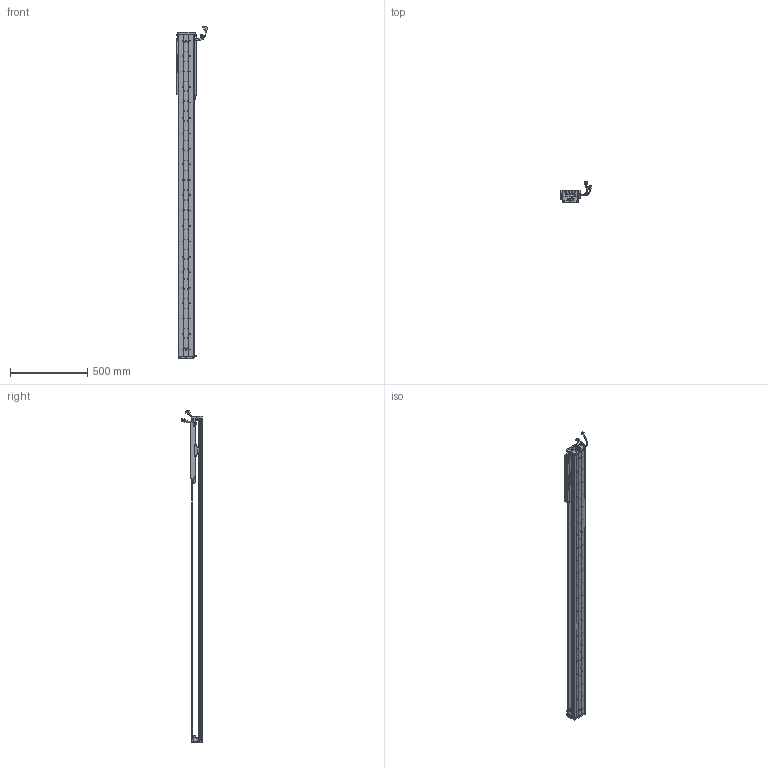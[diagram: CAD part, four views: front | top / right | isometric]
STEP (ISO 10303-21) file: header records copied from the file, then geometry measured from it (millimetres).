
FILE_DESCRIPTION (( 'STEP AP203' ), '1' );
FILE_NAME ('Z5-RY100D-1-L500-B-K.SLDASM_1650.step', '2021-05-17T03:33:51', ( '盈信电脑' ), ( '东莞市道滘镇水果街19号' ), 'SwSTEP 2.0', 'SolidWorks 2016', '' );
FILE_SCHEMA (( 'CONFIG_CONTROL_DESIGN' ));
Length unit declared in the file: millimetre
Products named in the file (36): SCREW-M1.7; SCREW-M1.6-3; 覜茼ん672; 140蚥薯蝶輸; Z-100詩湍傷裔啣; SCALE-Part-2; COVER-Part-1; 100-Z-臏賑輸盄裔(21遴); SCREW-M1.7-1; SEAL; 榋妏寠巭燃_暯_M2_2; SCALE-Part-1; Z5-RY100D-500-倰第菁釱_1650; HOLDER0; 080黍杅芛假蚾釱21遴; Z5-RY100-L500詩湍90mm遵_1650; SCREW-M1.6-2; HARNESS-Part-2; Z5-RY100铝滑块（21款）; SHIELDPLATE; SCALE; HARNESS; Z5-RY100D-1-L500-B-K.SLDASM_1650; LABEL; Z-RY100D覜茼んえ; COVER; SEAL-Part-1; Z-RY100D詩湍奻揤裔; PBU_SHEET; Z-RY100D詩湍狟揤裔; 140雄赽晤鎢ん堤盄; HARNESS-Part-1; SCREW-M1.6; SCREW-M1.6-1; PSLH080_PSLF2; LABEL-Part-1
Assembly tree (43 placements, depth 4):
  Z5-RY100D-1-L500-B-K.SLDASM_1650
    Z5-RY100D-500-倰第菁釱_1650
    Z5-RY100铝滑块（21款）
    PSLH080_PSLF2
      SCALE
        SCALE-Part-1
        SCALE-Part-2
      HARNESS
        HARNESS-Part-1
        HARNESS-Part-2
      LABEL
        LABEL-Part-1
      COVER
        COVER-Part-1
      SEAL
        SEAL-Part-1
      榋妏寠巭燃_暯_M2_2
      SHIELDPLATE
      SCREW-M1.7
      SCREW-M1.7-1
      PBU_SHEET
      SCREW-M1.6
      SCREW-M1.6-1
      SCREW-M1.6-2
      SCREW-M1.6-3
      HOLDER0
    080黍杅芛假蚾釱21遴
    Z-100詩湍傷裔啣  x2
    140蚥薯蝶輸  x2
    覜茼ん672  x3
    Z-RY100D覜茼んえ  x3
    100-Z-臏賑輸盄裔(21遴)
    140雄赽晤鎢ん堤盄
    Z5-RY100-L500詩湍90mm遵_1650
    Z-RY100D詩湍狟揤裔  x2
    Z-RY100D詩湍奻揤裔  x2
Bounding box: 205.84 x 136.11 x 2150.43 mm (x, y, z)
Volume: 4269188.6 mm3; surface area: 1635906.8 mm2
Topology: 38 solids, 38 shells, 2875 faces, 7747 edges, 4932 vertices
Faces by surface type: cylinder 1362, plane 1165, cone 226, torus 69, bspline 53
Entity records: 81641 total; most frequent: CARTESIAN_POINT 17115, DIRECTION 13105, ORIENTED_EDGE 12374, EDGE_CURVE 6187, AXIS2_PLACEMENT_3D 4898, VERTEX_POINT 4000, VECTOR 3309, LINE 3309
